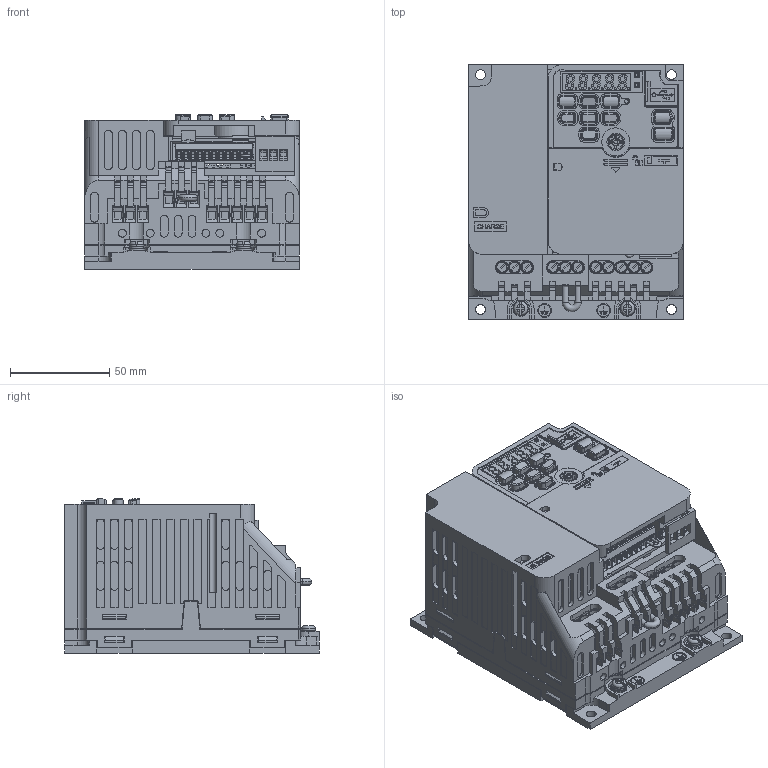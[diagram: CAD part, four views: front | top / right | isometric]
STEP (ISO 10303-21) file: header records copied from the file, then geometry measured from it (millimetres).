
FILE_DESCRIPTION((''),'2;1');
FILE_NAME('CIPR-GA50X4002AJXX_ASM','2020-01-20T',('vsetu'),('YASKAWA ELECTRIC CORCORATION'),'PRO/ENGINEER BY PARAMETRIC TECHNOLOGY CORPORATION, 2015110','PRO/ENGINEER BY PARAMETRIC TECHNOLOGY CORPORATION, 2015110','');
FILE_SCHEMA(('AUTOMOTIVE_DESIGN { 1 0 10303 214 1 1 1 1 }'));
Products named in the file (10): CIPR-GA50X4002AJXX_BODY_1; CIPR-GA50_ALL_TB; CIPR-GA50_KEYPAD; CIPR-GA50_USB_COVER; CIPR-GA50_COMMON_1; CIPR-GA50_COMMON_2; CIPR-GA50_FP; CIPR-GA50_SCREW_GND_M4X8; CIPR-GA50_COMMON_4; CIPR-GA50X4002AJXX_ASM
Assembly tree (10 placements, depth 2):
  CIPR-GA50X4002AJXX_ASM
    CIPR-GA50X4002AJXX_BODY_1
    CIPR-GA50_ALL_TB
    CIPR-GA50_KEYPAD
    CIPR-GA50_USB_COVER
    CIPR-GA50_COMMON_1
    CIPR-GA50_COMMON_2
    CIPR-GA50_FP
    CIPR-GA50_SCREW_GND_M4X8  x2
    CIPR-GA50_COMMON_4
Bounding box: 108 x 128 x 77.75 mm (x, y, z)
Volume: 749031 mm3; surface area: 163841.4 mm2
Topology: 11 solids, 12 shells, 6263 faces, 16745 edges, 10983 vertices
Faces by surface type: plane 4967, cylinder 1175, torus 48, bspline 34, cone 31, sphere 8
Entity records: 240351 total; most frequent: CARTESIAN_POINT 37552, ORIENTED_EDGE 33282, DIRECTION 31243, EDGE_CURVE 16641, VECTOR 13695, LINE 13695, VERTEX_POINT 10921, AXIS2_PLACEMENT_3D 8774
